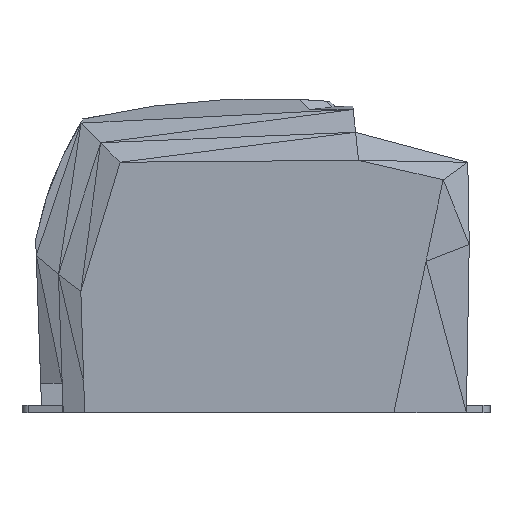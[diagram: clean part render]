
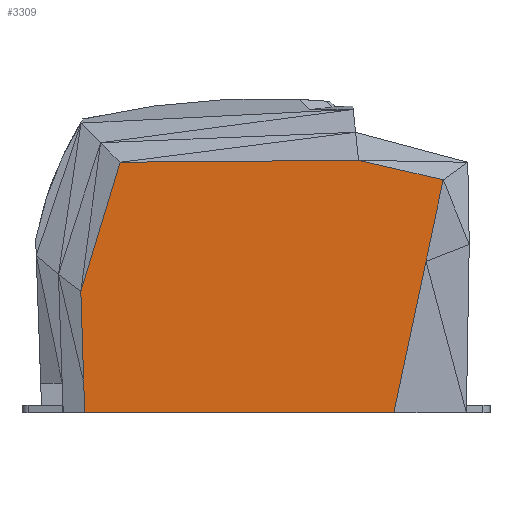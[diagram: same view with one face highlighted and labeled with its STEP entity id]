
A CAD part, left-side view. The second image highlights one B-rep face of the part: STEP entity #3309.
In plain terms, the highlighted planar face has unit normal (-1, 0, -0.017).
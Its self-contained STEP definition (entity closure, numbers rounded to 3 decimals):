
#44 = VECTOR ( 'NONE', #4000, 1000. ) ;
#77 = ORIENTED_EDGE ( 'NONE', *, *, #239, .F. ) ;
#87 = ORIENTED_EDGE ( 'NONE', *, *, #297, .F. ) ;
#93 = ORIENTED_EDGE ( 'NONE', *, *, #1073, .T. ) ;
#95 = ORIENTED_EDGE ( 'NONE', *, *, #348, .T. ) ;
#148 = ORIENTED_EDGE ( 'NONE', *, *, #511, .T. ) ;
#172 = ORIENTED_EDGE ( 'NONE', *, *, #529, .T. ) ;
#221 = ORIENTED_EDGE ( 'NONE', *, *, #422, .T. ) ;
#239 = EDGE_CURVE ( 'NONE', #931, #2913, #4312, .T. ) ;
#269 = EDGE_CURVE ( 'NONE', #2935, #905, #4281, .T. ) ;
#297 = EDGE_CURVE ( 'NONE', #2913, #2970, #947, .T. ) ;
#348 = EDGE_CURVE ( 'NONE', #817, #2970, #606, .T. ) ;
#378 = EDGE_CURVE ( 'NONE', #2935, #2992, #2631, .T. ) ;
#422 = EDGE_CURVE ( 'NONE', #2949, #3009, #2717, .T. ) ;
#481 = EDGE_CURVE ( 'NONE', #2949, #3003, #2811, .T. ) ;
#511 = EDGE_CURVE ( 'NONE', #864, #2926, #2862, .T. ) ;
#512 = EDGE_CURVE ( 'NONE', #3003, #2992, #2853, .T. ) ;
#521 = EDGE_CURVE ( 'NONE', #3017, #905, #2878, .T. ) ;
#522 = EDGE_CURVE ( 'NONE', #931, #864, #2880, .T. ) ;
#529 = EDGE_CURVE ( 'NONE', #2926, #3017, #2890, .T. ) ;
#602 = VECTOR ( 'NONE', #4115, 1000. ) ;
#606 = LINE ( 'NONE', #3715, #602 ) ;
#817 = VERTEX_POINT ( 'NONE', #1334 ) ;
#864 = VERTEX_POINT ( 'NONE', #1355 ) ;
#905 = VERTEX_POINT ( 'NONE', #1220 ) ;
#931 = VERTEX_POINT ( 'NONE', #1731 ) ;
#947 = LINE ( 'NONE', #3594, #44 ) ;
#1073 = EDGE_CURVE ( 'NONE', #3009, #817, #2398, .T. ) ;
#1082 = AXIS2_PLACEMENT_3D ( 'NONE', #1911, #1698, #1693 ) ;
#1212 = DIRECTION ( 'NONE',  ( 0.017, 0.291, -0.957 ) ) ;
#1220 = CARTESIAN_POINT ( 'NONE',  ( -24.26, 222.188, 67.664 ) ) ;
#1308 = CARTESIAN_POINT ( 'NONE',  ( -24.385, 220.003, 74.841 ) ) ;
#1334 = CARTESIAN_POINT ( 'NONE',  ( -24.552, 29.684, 84.436 ) ) ;
#1342 = CARTESIAN_POINT ( 'NONE',  ( -23.08, 47.632, 0.009 ) ) ;
#1355 = CARTESIAN_POINT ( 'NONE',  ( -25.534, 67.293, 140.707 ) ) ;
#1361 = CARTESIAN_POINT ( 'NONE',  ( -23.079, 220.004, 0. ) ) ;
#1393 = DIRECTION ( 'NONE',  ( -0.017, 0.035, 0.999 ) ) ;
#1395 = CARTESIAN_POINT ( 'NONE',  ( -23.367, 220.582, 16.5 ) ) ;
#1399 = CARTESIAN_POINT ( 'NONE',  ( -25.334, 224.528, 129.233 ) ) ;
#1401 = DIRECTION ( 'NONE',  ( 0., 1., -0.008 ) ) ;
#1408 = CARTESIAN_POINT ( 'NONE',  ( -25.541, 19.321, 141.088 ) ) ;
#1501 = DIRECTION ( 'NONE',  ( -0.004, 0.974, 0.224 ) ) ;
#1503 = CARTESIAN_POINT ( 'NONE',  ( -25.347, 20.763, 129.993 ) ) ;
#1506 = CARTESIAN_POINT ( 'NONE',  ( -24.553, 29.682, 84.442 ) ) ;
#1556 = CARTESIAN_POINT ( 'NONE',  ( -26.344, 185.82, 187.107 ) ) ;
#1559 = CARTESIAN_POINT ( 'NONE',  ( -23.079, 47.634, 0. ) ) ;
#1565 = DIRECTION ( 'NONE',  ( 0.017, 0.291, -0.957 ) ) ;
#1602 = CARTESIAN_POINT ( 'NONE',  ( -24.26, 222.19, 67.66 ) ) ;
#1628 = CARTESIAN_POINT ( 'NONE',  ( -25.516, 200.277, 139.648 ) ) ;
#1693 = DIRECTION ( 'NONE',  ( -0.002, 0.994, 0.111 ) ) ;
#1698 = DIRECTION ( 'NONE',  ( -1., 0., -0.017 ) ) ;
#1731 = CARTESIAN_POINT ( 'NONE',  ( -25.345, 20.108, 129.842 ) ) ;
#1780 = CARTESIAN_POINT ( 'NONE',  ( -24.697, 27.937, 92.727 ) ) ;
#1823 = CARTESIAN_POINT ( 'NONE',  ( -26.344, 185.836, 187.094 ) ) ;
#1911 = CARTESIAN_POINT ( 'NONE',  ( -25.459, 19.284, 136.415 ) ) ;
#1916 = PLANE ( 'NONE',  #1082 ) ;
#1988 = DIRECTION ( 'NONE',  ( -0.017, -0.208, 0.978 ) ) ;
#2055 = CARTESIAN_POINT ( 'NONE',  ( -25.457, 18.662, 136.283 ) ) ;
#2398 = LINE ( 'NONE', #2055, #2407 ) ;
#2407 = VECTOR ( 'NONE', #1988, 1000. ) ;
#2515 = FACE_OUTER_BOUND ( 'NONE', #3341, .T. ) ;
#2631 = LINE ( 'NONE', #3456, #2635 ) ;
#2635 = VECTOR ( 'NONE', #3938, 1000. ) ;
#2717 = LINE ( 'NONE', #3531, #2721 ) ;
#2721 = VECTOR ( 'NONE', #3524, 1000. ) ;
#2811 = LINE ( 'NONE', #3682, #2813 ) ;
#2813 = VECTOR ( 'NONE', #3971, 1000. ) ;
#2853 = LINE ( 'NONE', #1399, #2865 ) ;
#2862 = LINE ( 'NONE', #1408, #2863 ) ;
#2863 = VECTOR ( 'NONE', #1401, 1000. ) ;
#2865 = VECTOR ( 'NONE', #1393, 1000. ) ;
#2878 = LINE ( 'NONE', #1556, #2881 ) ;
#2880 = LINE ( 'NONE', #1503, #2883 ) ;
#2881 = VECTOR ( 'NONE', #1565, 1000. ) ;
#2883 = VECTOR ( 'NONE', #1501, 1000. ) ;
#2890 = LINE ( 'NONE', #1823, #2897 ) ;
#2897 = VECTOR ( 'NONE', #1212, 1000. ) ;
#2913 = VERTEX_POINT ( 'NONE', #1780 ) ;
#2926 = VERTEX_POINT ( 'NONE', #1628 ) ;
#2935 = VERTEX_POINT ( 'NONE', #1602 ) ;
#2949 = VERTEX_POINT ( 'NONE', #1559 ) ;
#2970 = VERTEX_POINT ( 'NONE', #1506 ) ;
#2992 = VERTEX_POINT ( 'NONE', #1395 ) ;
#3003 = VERTEX_POINT ( 'NONE', #1361 ) ;
#3009 = VERTEX_POINT ( 'NONE', #1342 ) ;
#3017 = VERTEX_POINT ( 'NONE', #1308 ) ;
#3196 = ORIENTED_EDGE ( 'NONE', *, *, #522, .T. ) ;
#3309 = ADVANCED_FACE ( 'NONE', ( #2515 ), #1916, .T. ) ;
#3341 = EDGE_LOOP ( 'NONE', ( #221, #93, #95, #87, #77, #3196, #148, #172, #4339, #4349, #4342, #4358, #4375 ) ) ;
#3456 = CARTESIAN_POINT ( 'NONE',  ( -25.347, 224.148, 129.978 ) ) ;
#3524 = DIRECTION ( 'NONE',  ( -0.017, -0.208, 0.978 ) ) ;
#3531 = CARTESIAN_POINT ( 'NONE',  ( -25.457, 18.666, 136.284 ) ) ;
#3594 = CARTESIAN_POINT ( 'NONE',  ( -25.457, 18.759, 136.305 ) ) ;
#3617 = CARTESIAN_POINT ( 'NONE',  ( -25.457, 18.746, 136.302 ) ) ;
#3682 = CARTESIAN_POINT ( 'NONE',  ( -23.079, 243.998, 0. ) ) ;
#3715 = CARTESIAN_POINT ( 'NONE',  ( -25.457, 18.546, 136.257 ) ) ;
#3809 = CARTESIAN_POINT ( 'NONE',  ( -26.376, 183.296, 188.98 ) ) ;
#3938 = DIRECTION ( 'NONE',  ( 0.017, -0.031, -0.999 ) ) ;
#3971 = DIRECTION ( 'NONE',  ( 0., 1., 0. ) ) ;
#3975 = DIRECTION ( 'NONE',  ( 0.017, 0.206, -0.978 ) ) ;
#4000 = DIRECTION ( 'NONE',  ( 0.017, 0.206, -0.978 ) ) ;
#4115 = DIRECTION ( 'NONE',  ( -0.017, -0.21, 0.978 ) ) ;
#4168 = DIRECTION ( 'NONE',  ( -0.017, -0.305, 0.952 ) ) ;
#4264 = VECTOR ( 'NONE', #4168, 1000. ) ;
#4281 = LINE ( 'NONE', #3809, #4264 ) ;
#4296 = VECTOR ( 'NONE', #3975, 1000. ) ;
#4312 = LINE ( 'NONE', #3617, #4296 ) ;
#4339 = ORIENTED_EDGE ( 'NONE', *, *, #521, .T. ) ;
#4342 = ORIENTED_EDGE ( 'NONE', *, *, #378, .T. ) ;
#4349 = ORIENTED_EDGE ( 'NONE', *, *, #269, .F. ) ;
#4358 = ORIENTED_EDGE ( 'NONE', *, *, #512, .F. ) ;
#4375 = ORIENTED_EDGE ( 'NONE', *, *, #481, .F. ) ;
